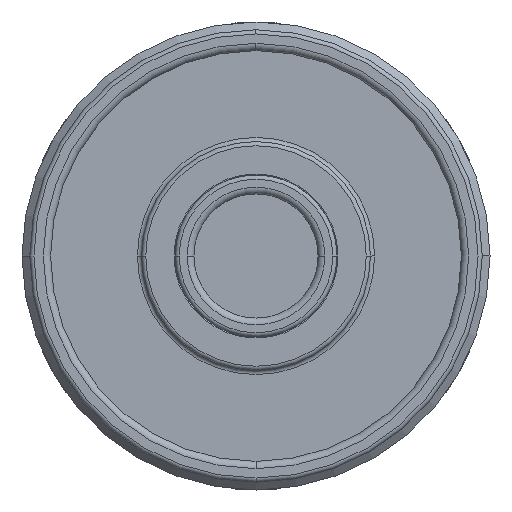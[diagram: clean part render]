
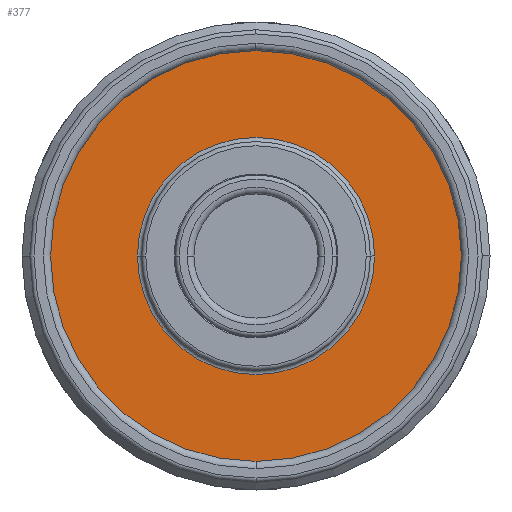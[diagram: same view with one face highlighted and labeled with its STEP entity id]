
A CAD part, front view. The second image highlights one B-rep face of the part: STEP entity #377.
In plain terms, the highlighted planar face has unit normal (0, -1, 0).
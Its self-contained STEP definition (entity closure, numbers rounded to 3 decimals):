
#173=PLANE('',#2418);
#255=FACE_BOUND('',#699,.T.);
#256=FACE_BOUND('',#700,.T.);
#377=ADVANCED_FACE('',(#255,#256),#173,.F.);
#699=EDGE_LOOP('',(#1158,#1159));
#700=EDGE_LOOP('',(#1160,#1161));
#866=CIRCLE('',#2375,11.4);
#874=CIRCLE('',#2385,21.4);
#892=CIRCLE('',#2416,11.4);
#893=CIRCLE('',#2417,21.4);
#1158=ORIENTED_EDGE('',*,*,#1943,.T.);
#1159=ORIENTED_EDGE('',*,*,#1911,.T.);
#1160=ORIENTED_EDGE('',*,*,#1944,.T.);
#1161=ORIENTED_EDGE('',*,*,#1919,.T.);
#1710=VERTEX_POINT('',#3635);
#1711=VERTEX_POINT('',#3636);
#1718=VERTEX_POINT('',#3653);
#1719=VERTEX_POINT('',#3654);
#1911=EDGE_CURVE('',#1710,#1711,#866,.T.);
#1919=EDGE_CURVE('',#1718,#1719,#874,.T.);
#1943=EDGE_CURVE('',#1711,#1710,#892,.T.);
#1944=EDGE_CURVE('',#1719,#1718,#893,.T.);
#2375=AXIS2_PLACEMENT_3D('',#3634,#2798,#2799);
#2385=AXIS2_PLACEMENT_3D('',#3652,#2818,#2819);
#2416=AXIS2_PLACEMENT_3D('',#3697,#2886,#2887);
#2417=AXIS2_PLACEMENT_3D('',#3698,#2888,#2889);
#2418=AXIS2_PLACEMENT_3D('',#3699,#2890,#2891);
#2798=DIRECTION('',(0.,1.,0.));
#2799=DIRECTION('',(-1.,0.,0.));
#2818=DIRECTION('',(0.,-1.,0.));
#2819=DIRECTION('',(-1.,0.,0.));
#2886=DIRECTION('',(0.,1.,0.));
#2887=DIRECTION('',(-1.,0.,0.));
#2888=DIRECTION('',(0.,-1.,0.));
#2889=DIRECTION('',(-1.,0.,0.));
#2890=DIRECTION('',(0.,1.,0.));
#2891=DIRECTION('',(-1.,0.,0.));
#3634=CARTESIAN_POINT('',(0.,21.6,0.));
#3635=CARTESIAN_POINT('',(11.4,21.6,0.));
#3636=CARTESIAN_POINT('',(-11.4,21.6,0.));
#3652=CARTESIAN_POINT('',(0.,21.6,0.));
#3653=CARTESIAN_POINT('',(21.4,21.6,0.));
#3654=CARTESIAN_POINT('',(-21.4,21.6,0.));
#3697=CARTESIAN_POINT('',(0.,21.6,0.));
#3698=CARTESIAN_POINT('',(0.,21.6,0.));
#3699=CARTESIAN_POINT('',(21.6,21.6,0.));
